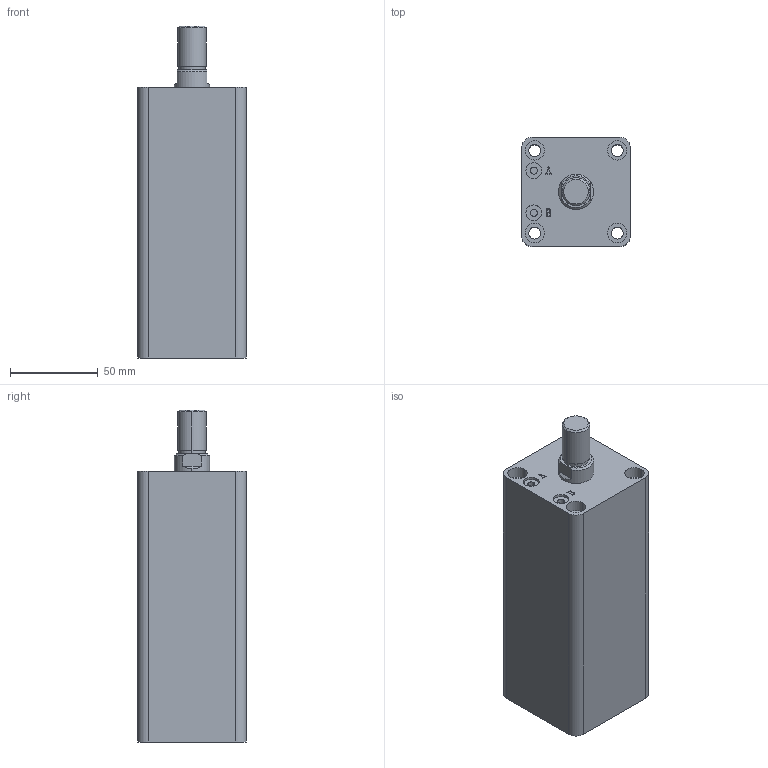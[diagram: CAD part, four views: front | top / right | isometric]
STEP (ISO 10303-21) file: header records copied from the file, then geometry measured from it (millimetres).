
FILE_DESCRIPTION (( 'STEP AP203' ), '1' );
FILE_NAME ('HTB-SDMA32-100W.STEP', '2019-10-07T11:46:42', ( '微软用户' ), ( '微软中国' ), 'SwSTEP 2.0', 'SolidWorks 2012', '' );
FILE_SCHEMA (( 'CONFIG_CONTROL_DESIGN' ));
Length unit declared in the file: millimetre
Products named in the file (3): HTB-SDMA32-100W; HTB-SDMA32-100W活塞杆; HTB-SDMA32-100掛极
Assembly tree (2 placements, depth 2):
  HTB-SDMA32-100W
    HTB-SDMA32-100掛极
    HTB-SDMA32-100W活塞杆
Bounding box: 62 x 62 x 189 mm (x, y, z)
Volume: 520220 mm3; surface area: 85802.8 mm2
Topology: 2 solids, 2 shells, 141 faces, 337 edges, 222 vertices
Faces by surface type: plane 67, cylinder 48, bspline 16, torus 6, cone 4
Entity records: 5176 total; most frequent: CARTESIAN_POINT 1593, ORIENTED_EDGE 674, DIRECTION 669, EDGE_CURVE 337, AXIS2_PLACEMENT_3D 242, VERTEX_POINT 222, VECTOR 185, LINE 185
